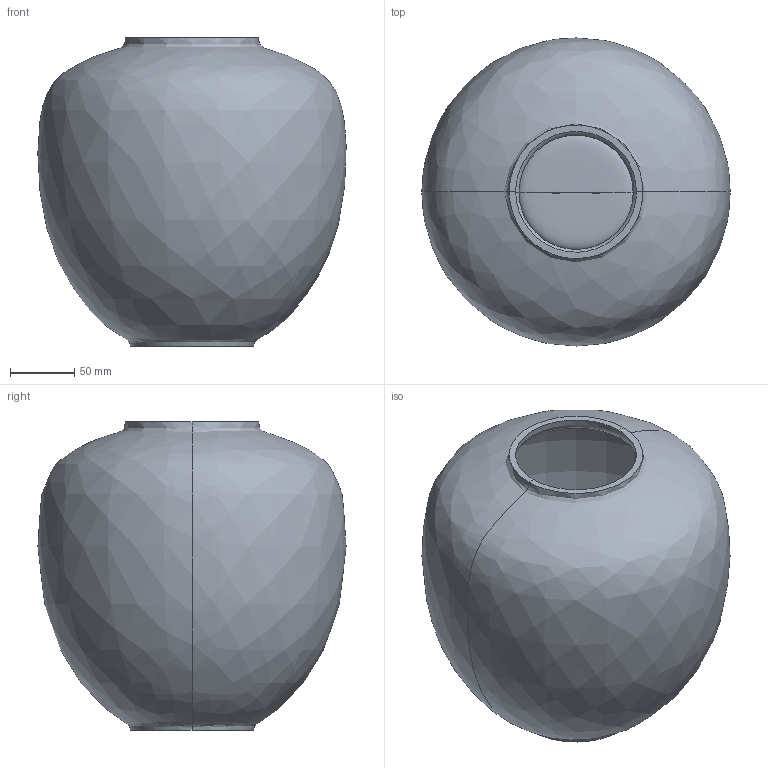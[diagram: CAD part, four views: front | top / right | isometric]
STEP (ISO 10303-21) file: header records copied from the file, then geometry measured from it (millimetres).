
FILE_DESCRIPTION(/* description */ (''),/* implementation_level */ '2;1');
FILE_NAME(/* name */ 'Sunao Vase Mini',/* time_stamp */ '2024-05-13T12:44:15+02:00',/* author */ (''),/* organization */ (''),/* preprocessor_version */ 'ST-DEVELOPER v16.5',/* originating_system */ 'Rhino 7.36',/* authorisation */ '');
FILE_SCHEMA (('CONFIG_CONTROL_DESIGN'));
Length unit declared in the file: millimetre
Products named in the file (1): Document
Bounding box: 240.13 x 240.03 x 240 mm (x, y, z)
Volume: 945039.6 mm3; surface area: 367136.9 mm2
Topology: 1 solids, 1 shells, 12 faces, 28 edges, 16 vertices
Faces by surface type: bspline 12
Entity records: 9034 total; most frequent: CARTESIAN_POINT 8661, B_SPLINE_CURVE_WITH_KNOTS 51, ORIENTED_EDGE 44, PCURVE 44, DEFINITIONAL_REPRESENTATION 44, SURFACE_CURVE 22, EDGE_CURVE 22, ADVANCED_FACE 12
